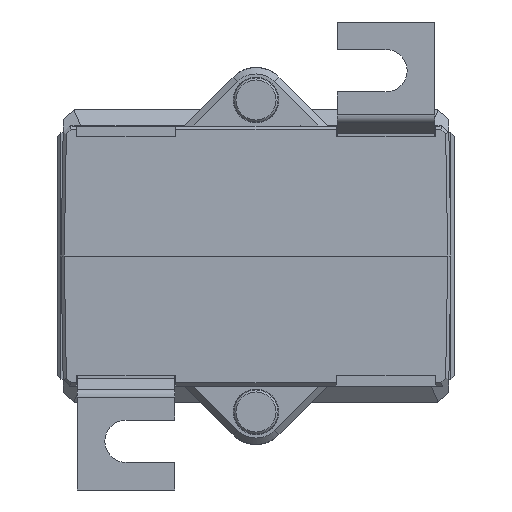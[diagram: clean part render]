
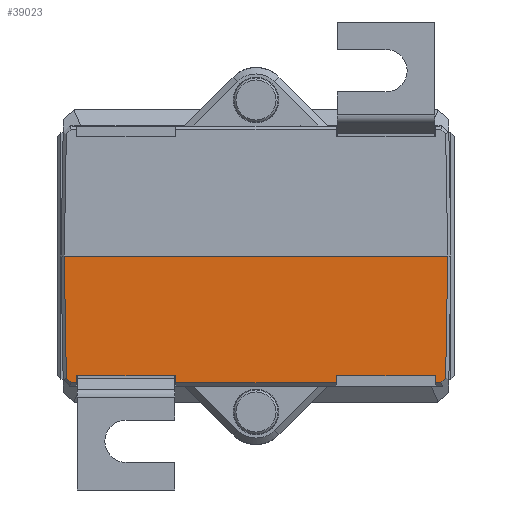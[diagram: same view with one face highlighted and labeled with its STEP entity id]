
A CAD part, front view. The second image highlights one B-rep face of the part: STEP entity #39023.
In plain terms, the highlighted planar face has unit normal (0, -1, -0.018).
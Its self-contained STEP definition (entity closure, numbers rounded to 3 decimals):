
#2822=FACE_OUTER_BOUND('',#5007,.T.);
#5007=EDGE_LOOP('',(#25313,#25314,#25315,#25316,#25317,#25318,#25319,#25320,
#25321,#25322,#25323,#25324,#25325,#25326));
#7683=LINE('',#58522,#11600);
#7684=LINE('',#58524,#11601);
#7685=LINE('',#58526,#11602);
#7686=LINE('',#58528,#11603);
#7687=LINE('',#58530,#11604);
#7688=LINE('',#58532,#11605);
#7689=LINE('',#58534,#11606);
#7690=LINE('',#58536,#11607);
#7691=LINE('',#58538,#11608);
#7692=LINE('',#58540,#11609);
#7693=LINE('',#58542,#11610);
#7694=LINE('',#58544,#11611);
#7695=LINE('',#58546,#11612);
#7696=LINE('',#58547,#11613);
#11600=VECTOR('',#44829,1000.);
#11601=VECTOR('',#44830,1000.);
#11602=VECTOR('',#44831,1000.);
#11603=VECTOR('',#44832,1000.);
#11604=VECTOR('',#44833,1000.);
#11605=VECTOR('',#44834,1000.);
#11606=VECTOR('',#44835,1000.);
#11607=VECTOR('',#44836,1000.);
#11608=VECTOR('',#44837,1000.);
#11609=VECTOR('',#44838,1000.);
#11610=VECTOR('',#44839,1000.);
#11611=VECTOR('',#44840,1000.);
#11612=VECTOR('',#44841,1000.);
#11613=VECTOR('',#44842,1000.);
#15743=VERTEX_POINT('',#58520);
#15744=VERTEX_POINT('',#58521);
#15745=VERTEX_POINT('',#58523);
#15746=VERTEX_POINT('',#58525);
#15747=VERTEX_POINT('',#58527);
#15748=VERTEX_POINT('',#58529);
#15749=VERTEX_POINT('',#58531);
#15750=VERTEX_POINT('',#58533);
#15751=VERTEX_POINT('',#58535);
#15752=VERTEX_POINT('',#58537);
#15753=VERTEX_POINT('',#58539);
#15754=VERTEX_POINT('',#58541);
#15755=VERTEX_POINT('',#58543);
#15756=VERTEX_POINT('',#58545);
#19463=EDGE_CURVE('',#15743,#15744,#7683,.T.);
#19464=EDGE_CURVE('',#15744,#15745,#7684,.T.);
#19465=EDGE_CURVE('',#15745,#15746,#7685,.T.);
#19466=EDGE_CURVE('',#15747,#15746,#7686,.T.);
#19467=EDGE_CURVE('',#15747,#15748,#7687,.T.);
#19468=EDGE_CURVE('',#15749,#15748,#7688,.T.);
#19469=EDGE_CURVE('',#15749,#15750,#7689,.T.);
#19470=EDGE_CURVE('',#15751,#15750,#7690,.T.);
#19471=EDGE_CURVE('',#15752,#15751,#7691,.T.);
#19472=EDGE_CURVE('',#15753,#15752,#7692,.T.);
#19473=EDGE_CURVE('',#15753,#15754,#7693,.T.);
#19474=EDGE_CURVE('',#15754,#15755,#7694,.T.);
#19475=EDGE_CURVE('',#15755,#15756,#7695,.T.);
#19476=EDGE_CURVE('',#15743,#15756,#7696,.T.);
#25313=ORIENTED_EDGE('',*,*,#19463,.T.);
#25314=ORIENTED_EDGE('',*,*,#19464,.T.);
#25315=ORIENTED_EDGE('',*,*,#19465,.T.);
#25316=ORIENTED_EDGE('',*,*,#19466,.F.);
#25317=ORIENTED_EDGE('',*,*,#19467,.T.);
#25318=ORIENTED_EDGE('',*,*,#19468,.F.);
#25319=ORIENTED_EDGE('',*,*,#19469,.T.);
#25320=ORIENTED_EDGE('',*,*,#19470,.F.);
#25321=ORIENTED_EDGE('',*,*,#19471,.F.);
#25322=ORIENTED_EDGE('',*,*,#19472,.F.);
#25323=ORIENTED_EDGE('',*,*,#19473,.T.);
#25324=ORIENTED_EDGE('',*,*,#19474,.T.);
#25325=ORIENTED_EDGE('',*,*,#19475,.T.);
#25326=ORIENTED_EDGE('',*,*,#19476,.F.);
#35434=PLANE('',#41345);
#39023=ADVANCED_FACE('',(#2822),#35434,.T.);
#41345=AXIS2_PLACEMENT_3D('',#58519,#44827,#44828);
#44827=DIRECTION('center_axis',(0.,-1.,-0.017));
#44828=DIRECTION('ref_axis',(0.,-0.017,1.));
#44829=DIRECTION('',(0.017,0.017,-1.));
#44830=DIRECTION('',(0.719,0.012,-0.695));
#44831=DIRECTION('',(1.,0.,0.));
#44832=DIRECTION('',(-0.009,0.017,-1.));
#44833=DIRECTION('',(1.,0.,0.));
#44834=DIRECTION('',(-0.009,-0.017,1.));
#44835=DIRECTION('',(1.,0.,0.));
#44836=DIRECTION('',(-0.009,0.017,-1.));
#44837=DIRECTION('',(-1.,0.,0.));
#44838=DIRECTION('',(-0.009,-0.017,1.));
#44839=DIRECTION('',(1.,0.,0.));
#44840=DIRECTION('',(0.719,-0.012,0.695));
#44841=DIRECTION('',(0.017,-0.017,1.));
#44842=DIRECTION('',(1.,0.,0.));
#58519=CARTESIAN_POINT('Origin',(30.,-31.5,0.));
#58520=CARTESIAN_POINT('',(-29.5,-31.5,0.));
#58521=CARTESIAN_POINT('',(-29.172,-31.172,-18.775));
#58522=CARTESIAN_POINT('',(-29.482,-31.482,-1.038));
#58523=CARTESIAN_POINT('',(-28.422,-31.16,-19.5));
#58524=CARTESIAN_POINT('',(-28.281,-31.157,-19.636));
#58525=CARTESIAN_POINT('',(-27.618,-31.16,-19.5));
#58526=CARTESIAN_POINT('',(28.633,-31.16,-19.5));
#58527=CARTESIAN_POINT('',(-27.608,-31.179,-18.4));
#58528=CARTESIAN_POINT('',(-27.443,-31.509,0.501));
#58529=CARTESIAN_POINT('',(-12.392,-31.179,-18.4));
#58530=CARTESIAN_POINT('',(30.,-31.179,-18.4));
#58531=CARTESIAN_POINT('',(-12.382,-31.16,-19.5));
#58532=CARTESIAN_POINT('',(-12.549,-31.494,-0.371));
#58533=CARTESIAN_POINT('',(12.382,-31.16,-19.5));
#58534=CARTESIAN_POINT('',(28.633,-31.16,-19.5));
#58535=CARTESIAN_POINT('',(12.392,-31.179,-18.4));
#58536=CARTESIAN_POINT('',(12.554,-31.503,0.152));
#58537=CARTESIAN_POINT('',(27.608,-31.179,-18.4));
#58538=CARTESIAN_POINT('',(30.,-31.179,-18.4));
#58539=CARTESIAN_POINT('',(27.618,-31.16,-19.5));
#58540=CARTESIAN_POINT('',(27.448,-31.5,-0.022));
#58541=CARTESIAN_POINT('',(28.422,-31.16,-19.5));
#58542=CARTESIAN_POINT('',(28.633,-31.16,-19.5));
#58543=CARTESIAN_POINT('',(29.172,-31.172,-18.776));
#58544=CARTESIAN_POINT('',(29.317,-31.175,-18.636));
#58545=CARTESIAN_POINT('',(29.5,-31.5,0.));
#58546=CARTESIAN_POINT('',(29.5,-31.5,0.009));
#58547=CARTESIAN_POINT('',(-30.,-31.5,0.));
